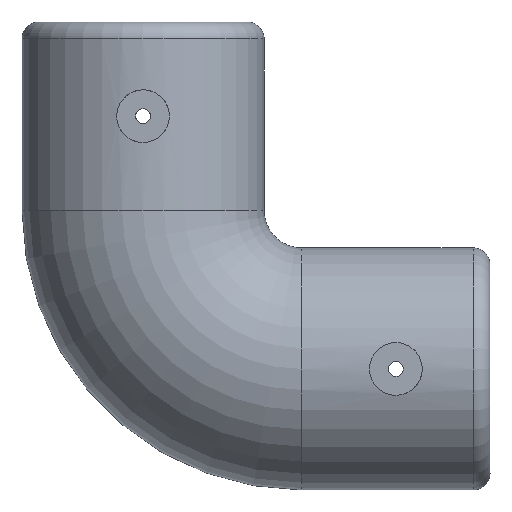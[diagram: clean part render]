
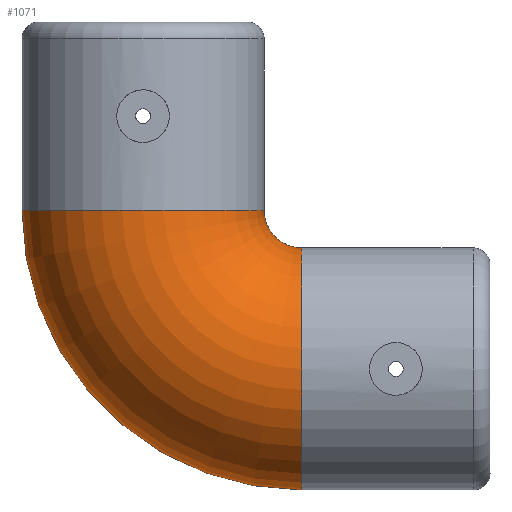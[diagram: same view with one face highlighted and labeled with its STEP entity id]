
A CAD part, front view. The second image highlights one B-rep face of the part: STEP entity #1071.
In plain terms, the highlighted toroidal (fillet/blend) face has major radius 42.15 mm and minor radius 32.15 mm.
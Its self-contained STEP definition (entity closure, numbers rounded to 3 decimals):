
#26 = VERTEX_POINT ( 'NONE', #5638 ) ;
#82 = VERTEX_POINT ( 'NONE', #2440 ) ;
#337 = FACE_OUTER_BOUND ( 'NONE', #3834, .T. ) ;
#510 = CARTESIAN_POINT ( 'NONE',  ( 42.15, -0.1, -74.3 ) ) ;
#700 = ORIENTED_EDGE ( 'NONE', *, *, #982, .T. ) ;
#844 = AXIS2_PLACEMENT_3D ( 'NONE', #5776, #886, #3529 ) ;
#886 = DIRECTION ( 'NONE',  ( 0., 1., 0. ) ) ;
#910 = AXIS2_PLACEMENT_3D ( 'NONE', #3153, #1724, #4876 ) ;
#982 = EDGE_CURVE ( 'NONE', #26, #1219, #2338, .T. ) ;
#1056 = EDGE_CURVE ( 'NONE', #82, #1219, #3943, .T. ) ;
#1071 = ADVANCED_FACE ( 'NONE', ( #337 ), #1292, .T. ) ;
#1186 = DIRECTION ( 'NONE',  ( 0., -1., 0. ) ) ;
#1219 = VERTEX_POINT ( 'NONE', #510 ) ;
#1238 = CARTESIAN_POINT ( 'NONE',  ( 0., 0., 0. ) ) ;
#1278 = DIRECTION ( 'NONE',  ( 1., 0., 0. ) ) ;
#1292 = TOROIDAL_SURFACE ( 'NONE', #910, 42.15, 32.15 ) ;
#1475 = DIRECTION ( 'NONE',  ( -1., 0., 0. ) ) ;
#1527 = EDGE_CURVE ( 'NONE', #4477, #26, #4322, .T. ) ;
#1724 = DIRECTION ( 'NONE',  ( 0., 1., 0. ) ) ;
#2200 = DIRECTION ( 'NONE',  ( 0., 0., -1. ) ) ;
#2338 = CIRCLE ( 'NONE', #5647, 74.3 ) ;
#2340 = EDGE_CURVE ( 'NONE', #82, #4477, #2550, .T. ) ;
#2440 = CARTESIAN_POINT ( 'NONE',  ( 42.15, -0.1, -10. ) ) ;
#2500 = ORIENTED_EDGE ( 'NONE', *, *, #1527, .T. ) ;
#2550 = CIRCLE ( 'NONE', #844, 10. ) ;
#2619 = ORIENTED_EDGE ( 'NONE', *, *, #2340, .T. ) ;
#3006 = DIRECTION ( 'NONE',  ( 1., 0., 0. ) ) ;
#3094 = AXIS2_PLACEMENT_3D ( 'NONE', #1238, #4116, #1475 ) ;
#3098 = AXIS2_PLACEMENT_3D ( 'NONE', #5848, #1278, #2200 ) ;
#3153 = CARTESIAN_POINT ( 'NONE',  ( 42.15, 0., 0. ) ) ;
#3529 = DIRECTION ( 'NONE',  ( -1., 0., 0. ) ) ;
#3834 = EDGE_LOOP ( 'NONE', ( #2500, #700, #5393, #2619 ) ) ;
#3890 = CARTESIAN_POINT ( 'NONE',  ( 42.15, -0.1, 0. ) ) ;
#3943 = CIRCLE ( 'NONE', #3098, 32.15 ) ;
#4116 = DIRECTION ( 'NONE',  ( 0., 0., -1. ) ) ;
#4322 = CIRCLE ( 'NONE', #3094, 32.15 ) ;
#4477 = VERTEX_POINT ( 'NONE', #4478 ) ;
#4478 = CARTESIAN_POINT ( 'NONE',  ( 32.15, -0.1, 0. ) ) ;
#4876 = DIRECTION ( 'NONE',  ( 0., 0., 1. ) ) ;
#5393 = ORIENTED_EDGE ( 'NONE', *, *, #1056, .F. ) ;
#5638 = CARTESIAN_POINT ( 'NONE',  ( -32.15, -0.1, 0. ) ) ;
#5647 = AXIS2_PLACEMENT_3D ( 'NONE', #3890, #1186, #3006 ) ;
#5776 = CARTESIAN_POINT ( 'NONE',  ( 42.15, -0.1, 0. ) ) ;
#5848 = CARTESIAN_POINT ( 'NONE',  ( 42.15, 0., -42.15 ) ) ;
